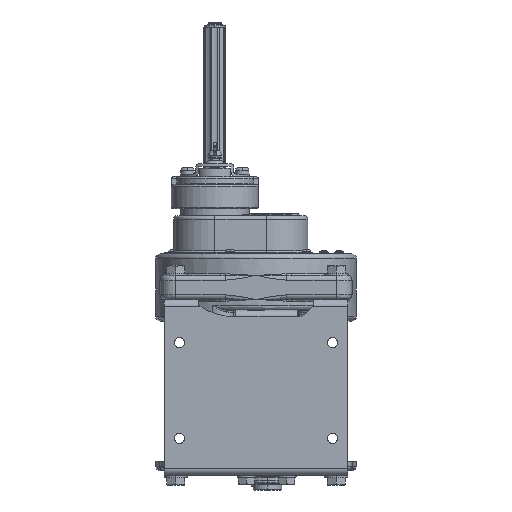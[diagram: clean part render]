
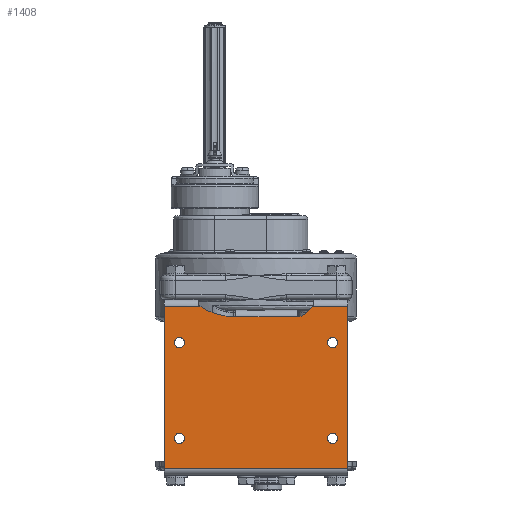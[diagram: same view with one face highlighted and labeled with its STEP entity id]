
A CAD part, front view. The second image highlights one B-rep face of the part: STEP entity #1408.
In plain terms, the highlighted planar face has unit normal (0, -1, 0).
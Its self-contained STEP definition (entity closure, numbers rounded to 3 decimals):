
#1408=ADVANCED_FACE('',(#16004,#16005,#16006,#16007,#16008),#16003,.T.);
#16003=PLANE('',#42560);
#16004=FACE_OUTER_BOUND('',#42561,.T.);
#16005=FACE_BOUND('',#42562,.T.);
#16006=FACE_BOUND('',#42563,.T.);
#16007=FACE_BOUND('',#42564,.T.);
#16008=FACE_BOUND('',#42565,.T.);
#42557=CARTESIAN_POINT('',(11.,-36.383,-212.1));
#42558=DIRECTION('',(0.,-1.,0.));
#42559=DIRECTION('',(0.,0.,1.));
#42560=AXIS2_PLACEMENT_3D('',#42557,#42558,#42559);
#42561=EDGE_LOOP('',(#59583,#59584,#59585,#59586,#59587,#59588,#59589,#59590,#59591,#59592));
#42562=EDGE_LOOP('',(#59593,#59594));
#42563=EDGE_LOOP('',(#59595,#59596));
#42564=EDGE_LOOP('',(#59597,#59598));
#42565=EDGE_LOOP('',(#59599,#59600));
#59583=ORIENTED_EDGE('',*,*,#71393,.T.);
#59584=ORIENTED_EDGE('',*,*,#71405,.T.);
#59585=ORIENTED_EDGE('',*,*,#71406,.T.);
#59586=ORIENTED_EDGE('',*,*,#67751,.T.);
#59587=ORIENTED_EDGE('',*,*,#71407,.T.);
#59588=ORIENTED_EDGE('',*,*,#71397,.T.);
#59589=ORIENTED_EDGE('',*,*,#71408,.T.);
#59590=ORIENTED_EDGE('',*,*,#71409,.F.);
#59591=ORIENTED_EDGE('',*,*,#71410,.F.);
#59592=ORIENTED_EDGE('',*,*,#71411,.T.);
#59593=ORIENTED_EDGE('',*,*,#71412,.F.);
#59594=ORIENTED_EDGE('',*,*,#71413,.F.);
#59595=ORIENTED_EDGE('',*,*,#71414,.F.);
#59596=ORIENTED_EDGE('',*,*,#71415,.F.);
#59597=ORIENTED_EDGE('',*,*,#71416,.F.);
#59598=ORIENTED_EDGE('',*,*,#71417,.F.);
#59599=ORIENTED_EDGE('',*,*,#71418,.F.);
#59600=ORIENTED_EDGE('',*,*,#71419,.F.);
#67751=EDGE_CURVE('',#75666,#75708,#75715,.T.);
#71393=EDGE_CURVE('',#100060,#100053,#100061,.T.);
#71397=EDGE_CURVE('',#100088,#100081,#100089,.T.);
#71405=EDGE_CURVE('',#100053,#100142,#100143,.T.);
#71406=EDGE_CURVE('',#100142,#75666,#100149,.T.);
#71407=EDGE_CURVE('',#75708,#100088,#100155,.T.);
#71408=EDGE_CURVE('',#100081,#100161,#100162,.T.);
#71409=EDGE_CURVE('',#100168,#100161,#100169,.T.);
#71410=EDGE_CURVE('',#100175,#100168,#100176,.T.);
#71411=EDGE_CURVE('',#100175,#100060,#100182,.T.);
#71412=EDGE_CURVE('',#100188,#100189,#100190,.T.);
#71413=EDGE_CURVE('',#100189,#100188,#100196,.T.);
#71414=EDGE_CURVE('',#100202,#100203,#100204,.T.);
#71415=EDGE_CURVE('',#100203,#100202,#100210,.T.);
#71416=EDGE_CURVE('',#100216,#100217,#100218,.T.);
#71417=EDGE_CURVE('',#100217,#100216,#100224,.T.);
#71418=EDGE_CURVE('',#100230,#100231,#100232,.T.);
#71419=EDGE_CURVE('',#100231,#100230,#100238,.T.);
#75666=VERTEX_POINT('',#123112);
#75708=VERTEX_POINT('',#123151);
#75715=LINE('',#123168,#123169);
#100053=VERTEX_POINT('',#140941);
#100060=VERTEX_POINT('',#140946);
#100061=LINE('',#140947,#140948);
#100081=VERTEX_POINT('',#140959);
#100088=VERTEX_POINT('',#140964);
#100089=CIRCLE('',#140968,70.);
#100142=VERTEX_POINT('',#141013);
#100143=CIRCLE('',#141017,30.);
#100149=CIRCLE('',#141021,2.);
#100155=CIRCLE('',#141025,2.);
#100161=VERTEX_POINT('',#141026);
#100162=LINE('',#141027,#141028);
#100168=VERTEX_POINT('',#141030);
#100169=LINE('',#141031,#141032);
#100175=VERTEX_POINT('',#141034);
#100176=LINE('',#141035,#141036);
#100182=LINE('',#141038,#141039);
#100188=VERTEX_POINT('',#141041);
#100189=VERTEX_POINT('',#141042);
#100190=CIRCLE('',#141046,5.25);
#100196=CIRCLE('',#141050,5.25);
#100202=VERTEX_POINT('',#141051);
#100203=VERTEX_POINT('',#141052);
#100204=CIRCLE('',#141056,5.25);
#100210=CIRCLE('',#141060,5.25);
#100216=VERTEX_POINT('',#141061);
#100217=VERTEX_POINT('',#141062);
#100218=CIRCLE('',#141066,5.25);
#100224=CIRCLE('',#141070,5.25);
#100230=VERTEX_POINT('',#141071);
#100231=VERTEX_POINT('',#141072);
#100232=CIRCLE('',#141076,5.25);
#100238=CIRCLE('',#141080,5.25);
#123112=CARTESIAN_POINT('',(-50.,-36.383,-43.4));
#123151=CARTESIAN_POINT('',(-118.,-36.383,-43.4));
#123168=CARTESIAN_POINT('',(-50.,-36.383,-43.4));
#123169=VECTOR('',#123170,68.);
#123170=DIRECTION('',(-1.,0.,0.));
#140941=CARTESIAN_POINT('',(-35.917,-36.383,-32.4));
#140946=CARTESIAN_POINT('',(1.,-36.383,-32.4));
#140947=CARTESIAN_POINT('',(1.,-36.383,-32.4));
#140948=VECTOR('',#140949,36.917);
#140949=DIRECTION('',(-1.,0.,0.));
#140959=CARTESIAN_POINT('',(-153.59,-36.383,-32.4));
#140964=CARTESIAN_POINT('',(-118.063,-36.383,-43.399));
#140965=CARTESIAN_POINT('',(-115.868,-36.383,26.567));
#140966=DIRECTION('',(0.,1.,0.));
#140967=DIRECTION('',(0.,0.,-1.));
#140968=AXIS2_PLACEMENT_3D('',#140965,#140966,#140967);
#141013=CARTESIAN_POINT('',(-49.234,-36.383,-43.247));
#141014=CARTESIAN_POINT('',(-60.73,-36.383,-15.537));
#141015=DIRECTION('',(0.,1.,0.));
#141016=DIRECTION('',(0.,0.,-1.));
#141017=AXIS2_PLACEMENT_3D('',#141014,#141015,#141016);
#141018=CARTESIAN_POINT('',(-50.,-36.383,-41.4));
#141019=DIRECTION('',(0.,1.,0.));
#141020=DIRECTION('',(0.,0.,-1.));
#141021=AXIS2_PLACEMENT_3D('',#141018,#141019,#141020);
#141022=CARTESIAN_POINT('',(-118.,-36.383,-41.4));
#141023=DIRECTION('',(0.,1.,0.));
#141024=DIRECTION('',(0.,0.,-1.));
#141025=AXIS2_PLACEMENT_3D('',#141022,#141023,#141024);
#141026=CARTESIAN_POINT('',(-191.,-36.383,-32.4));
#141027=CARTESIAN_POINT('',(-153.59,-36.383,-32.4));
#141028=VECTOR('',#141029,37.41);
#141029=DIRECTION('',(-1.,0.,0.));
#141030=CARTESIAN_POINT('',(-191.,-36.383,-202.1));
#141031=CARTESIAN_POINT('',(-191.,-36.383,-202.1));
#141032=VECTOR('',#141033,169.7);
#141033=DIRECTION('',(0.,0.,1.));
#141034=CARTESIAN_POINT('',(1.,-36.383,-202.1));
#141035=CARTESIAN_POINT('',(1.,-36.383,-202.1));
#141036=VECTOR('',#141037,192.);
#141037=DIRECTION('',(-1.,0.,0.));
#141038=CARTESIAN_POINT('',(1.,-36.383,-202.1));
#141039=VECTOR('',#141040,169.7);
#141040=DIRECTION('',(0.,0.,1.));
#141041=CARTESIAN_POINT('',(-15.,-36.383,-75.65));
#141042=CARTESIAN_POINT('',(-15.,-36.383,-65.15));
#141043=CARTESIAN_POINT('',(-15.,-36.383,-70.4));
#141044=DIRECTION('',(0.,-1.,0.));
#141045=DIRECTION('',(0.,0.,1.));
#141046=AXIS2_PLACEMENT_3D('',#141043,#141044,#141045);
#141047=CARTESIAN_POINT('',(-15.,-36.383,-70.4));
#141048=DIRECTION('',(0.,-1.,0.));
#141049=DIRECTION('',(0.,0.,1.));
#141050=AXIS2_PLACEMENT_3D('',#141047,#141048,#141049);
#141051=CARTESIAN_POINT('',(-175.,-36.383,-75.65));
#141052=CARTESIAN_POINT('',(-175.,-36.383,-65.15));
#141053=CARTESIAN_POINT('',(-175.,-36.383,-70.4));
#141054=DIRECTION('',(0.,-1.,0.));
#141055=DIRECTION('',(0.,0.,1.));
#141056=AXIS2_PLACEMENT_3D('',#141053,#141054,#141055);
#141057=CARTESIAN_POINT('',(-175.,-36.383,-70.4));
#141058=DIRECTION('',(0.,-1.,0.));
#141059=DIRECTION('',(0.,0.,1.));
#141060=AXIS2_PLACEMENT_3D('',#141057,#141058,#141059);
#141061=CARTESIAN_POINT('',(-175.,-36.383,-175.65));
#141062=CARTESIAN_POINT('',(-175.,-36.383,-165.15));
#141063=CARTESIAN_POINT('',(-175.,-36.383,-170.4));
#141064=DIRECTION('',(0.,-1.,0.));
#141065=DIRECTION('',(0.,0.,1.));
#141066=AXIS2_PLACEMENT_3D('',#141063,#141064,#141065);
#141067=CARTESIAN_POINT('',(-175.,-36.383,-170.4));
#141068=DIRECTION('',(0.,-1.,0.));
#141069=DIRECTION('',(0.,0.,1.));
#141070=AXIS2_PLACEMENT_3D('',#141067,#141068,#141069);
#141071=CARTESIAN_POINT('',(-15.,-36.383,-175.65));
#141072=CARTESIAN_POINT('',(-15.,-36.383,-165.15));
#141073=CARTESIAN_POINT('',(-15.,-36.383,-170.4));
#141074=DIRECTION('',(0.,-1.,0.));
#141075=DIRECTION('',(0.,0.,1.));
#141076=AXIS2_PLACEMENT_3D('',#141073,#141074,#141075);
#141077=CARTESIAN_POINT('',(-15.,-36.383,-170.4));
#141078=DIRECTION('',(0.,-1.,0.));
#141079=DIRECTION('',(0.,0.,1.));
#141080=AXIS2_PLACEMENT_3D('',#141077,#141078,#141079);
